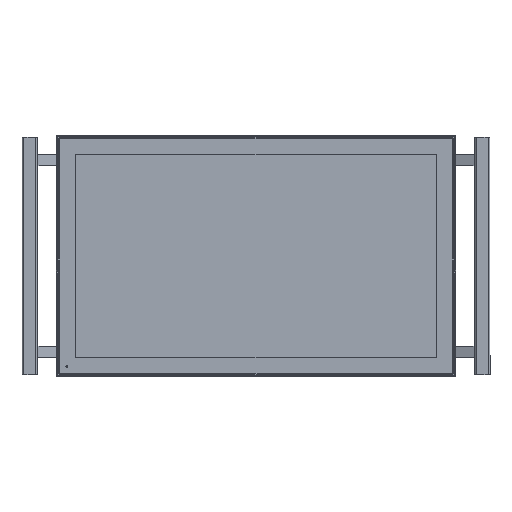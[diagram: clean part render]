
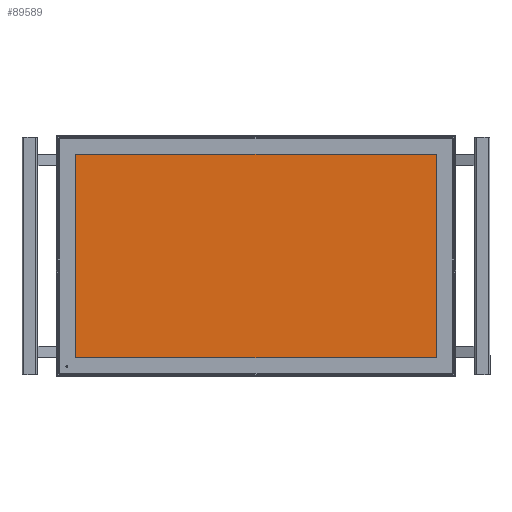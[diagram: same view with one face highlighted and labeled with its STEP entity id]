
A CAD part, top view. The second image highlights one B-rep face of the part: STEP entity #89589.
In plain terms, the highlighted planar face has unit normal (0, 0, 1) as drawn and (0, 1, 0) by its records, which use the part's own axes.
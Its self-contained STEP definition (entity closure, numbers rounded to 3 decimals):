
#3535 = CARTESIAN_POINT ( 'NONE',  ( -238.92, 2.7, -134.655 ) ) ;
#5639 = FACE_OUTER_BOUND ( 'NONE', #110875, .T. ) ;
#6974 = DIRECTION ( 'NONE',  ( 0., 0., 1. ) ) ;
#9976 = DIRECTION ( 'NONE',  ( 0., 0., -1. ) ) ;
#15407 = DIRECTION ( 'NONE',  ( 1., 0., 0. ) ) ;
#16635 = VERTEX_POINT ( 'NONE', #150934 ) ;
#20464 = EDGE_CURVE ( 'NONE', #16635, #155328, #114820, .T. ) ;
#22761 = PLANE ( 'NONE',  #70761 ) ;
#27957 = VECTOR ( 'NONE', #9976, 1000. ) ;
#32945 = CARTESIAN_POINT ( 'NONE',  ( 238.92, 2.7, -134.655 ) ) ;
#43439 = LINE ( 'NONE', #3535, #159607 ) ;
#46097 = VECTOR ( 'NONE', #15407, 1000. ) ;
#47791 = EDGE_CURVE ( 'NONE', #164287, #50494, #43439, .T. ) ;
#50494 = VERTEX_POINT ( 'NONE', #104195 ) ;
#56315 = ORIENTED_EDGE ( 'NONE', *, *, #20464, .T. ) ;
#60189 = DIRECTION ( 'NONE',  ( -1., 0., 0. ) ) ;
#63990 = ORIENTED_EDGE ( 'NONE', *, *, #124992, .T. ) ;
#70761 = AXIS2_PLACEMENT_3D ( 'NONE', #142190, #75573, #128376 ) ;
#72320 = LINE ( 'NONE', #151961, #112106 ) ;
#75573 = DIRECTION ( 'NONE',  ( 0., 1., 0. ) ) ;
#83819 = LINE ( 'NONE', #148711, #46097 ) ;
#89589 = ADVANCED_FACE ( 'NONE', ( #5639 ), #22761, .T. ) ;
#89737 = CARTESIAN_POINT ( 'NONE',  ( 238.92, 2.7, 134.655 ) ) ;
#101927 = CARTESIAN_POINT ( 'NONE',  ( -238.92, 2.7, -134.655 ) ) ;
#104195 = CARTESIAN_POINT ( 'NONE',  ( -238.92, 2.7, 134.655 ) ) ;
#110875 = EDGE_LOOP ( 'NONE', ( #128096, #56315, #63990, #135662 ) ) ;
#112106 = VECTOR ( 'NONE', #60189, 1000. ) ;
#114820 = LINE ( 'NONE', #89737, #27957 ) ;
#124992 = EDGE_CURVE ( 'NONE', #155328, #164287, #72320, .T. ) ;
#126021 = EDGE_CURVE ( 'NONE', #50494, #16635, #83819, .T. ) ;
#128096 = ORIENTED_EDGE ( 'NONE', *, *, #126021, .T. ) ;
#128376 = DIRECTION ( 'NONE',  ( 1., 0., 0. ) ) ;
#135662 = ORIENTED_EDGE ( 'NONE', *, *, #47791, .T. ) ;
#142190 = CARTESIAN_POINT ( 'NONE',  ( 0., 2.7, 0. ) ) ;
#148711 = CARTESIAN_POINT ( 'NONE',  ( -238.92, 2.7, 134.655 ) ) ;
#150934 = CARTESIAN_POINT ( 'NONE',  ( 238.92, 2.7, 134.655 ) ) ;
#151961 = CARTESIAN_POINT ( 'NONE',  ( 238.92, 2.7, -134.655 ) ) ;
#155328 = VERTEX_POINT ( 'NONE', #32945 ) ;
#159607 = VECTOR ( 'NONE', #6974, 1000. ) ;
#164287 = VERTEX_POINT ( 'NONE', #101927 ) ;
